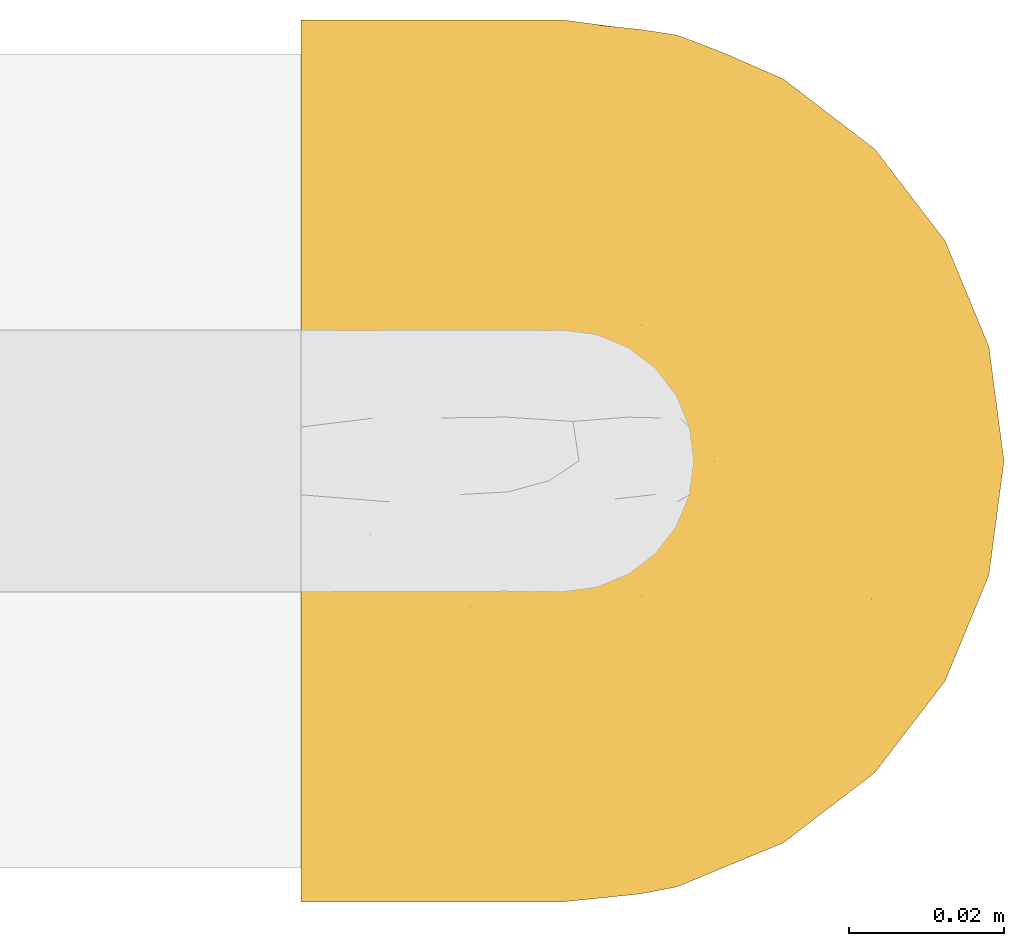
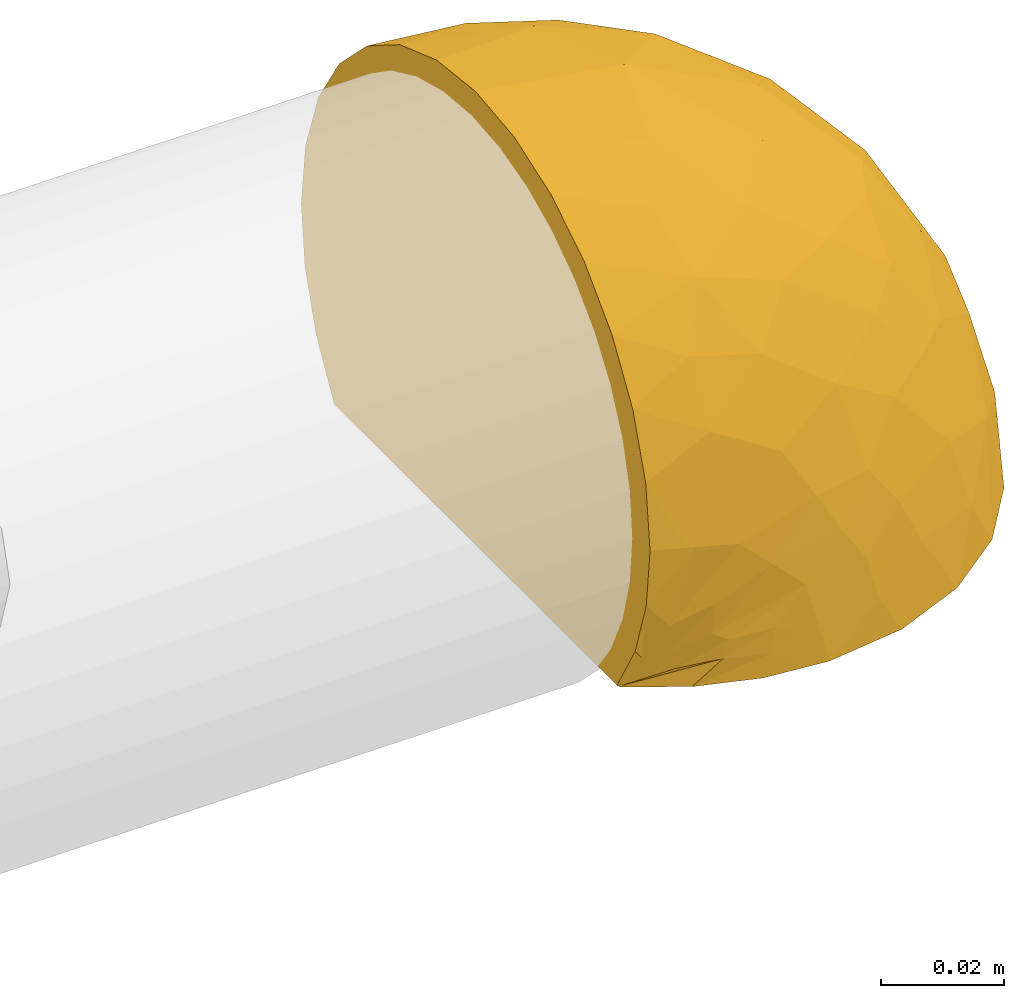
# One storey, part 1 of 4: 1 covering.
"""IFC2X3 building model written with IfcOpenShell, lengths in millimetres."""

import ifcopenshell
import ifcopenshell.guid

model = None  # the IFC model being written
_history = None  # IfcOwnerHistory: only IFC2X3 demands one
_inside = {}  # id of a spatial element -> (the spatial element, [elements in it])
_under = {}  # id of a project, library or spatial element -> (it, [spatial elements below it])
_declared = {}  # id of a project -> (the project, [libraries it declares])
_typed = {}  # id of a type object -> (the type object, [elements of that type])
_made_of = {}  # id of a material, layer set ... -> (it, [elements and type objects made of it])


def new_model(schema):
    """Start an empty IFC model of exactly this schema.

    Asked for "IFC4X3", IfcOpenShell would pick the latest addendum, in which some entities
    have other attributes; the version numbers below select the first issue.
    IFC2X3 requires an IfcOwnerHistory on every rooted entity: one is made here for all.
    """
    global model, _history
    if schema == "IFC4X3":
        model = ifcopenshell.file(schema_version=(4, 3, 0, 0))
    else:
        model = ifcopenshell.file(schema=schema)
    _inside.clear()
    _under.clear()
    _declared.clear()
    _typed.clear()
    _made_of.clear()
    _history = None
    if model.schema == "IFC2X3":
        org = make("IfcOrganization", Name="unknown")
        user = make(
            "IfcPersonAndOrganization",
            ThePerson=make("IfcPerson", FamilyName="unknown"),
            TheOrganization=org,
        )
        app = make(
            "IfcApplication",
            ApplicationDeveloper=org,
            Version="unknown",
            ApplicationFullName="unknown",
            ApplicationIdentifier="unknown",
        )
        _history = make(
            "IfcOwnerHistory",
            OwningUser=user,
            OwningApplication=app,
            ChangeAction="ADDED",
            CreationDate=0,
        )
    return model


def make(cls, **values):
    """One entity of the class cls with the attributes given. An attribute that is None is left unset."""
    return model.create_entity(
        cls, **{name: value for name, value in values.items() if value is not None}
    )


def entity(cls, *values):
    """Any entity or typed value of the class cls, its attributes in the order of the schema. None: left unset."""
    e = model.create_entity(cls)
    for i, value in enumerate(values):
        if value is not None:
            e[i] = value
    return e


def rooted(cls, **values):
    """An entity with a GlobalId (a new one), such as an element, a storey or a relation."""
    return make(cls, GlobalId=ifcopenshell.guid.new(), OwnerHistory=_history, **values)


def si_unit(unit_type, name, prefix=None):
    """IfcSIUnit, for example si_unit("LENGTHUNIT", "METRE", prefix="MILLI")."""
    return make("IfcSIUnit", UnitType=unit_type, Prefix=prefix, Name=name)


def converted_unit(unit_type, name, factor, base, dimensions=None, offset=None):
    """IfcConversionBasedUnit, such as the inch: factor (a typed value) times the base unit."""
    return make(
        "IfcConversionBasedUnit"
        if offset is None
        else "IfcConversionBasedUnitWithOffset",
        ConversionOffset=offset,
        Dimensions=None
        if dimensions is None
        else entity("IfcDimensionalExponents", *dimensions),
        UnitType=unit_type,
        Name=name,
        ConversionFactor=make(
            "IfcMeasureWithUnit", ValueComponent=factor, UnitComponent=base
        ),
    )


def derived_unit(unit_type, elements):
    """IfcDerivedUnit: a product of units, each with its exponent."""
    return make(
        "IfcDerivedUnit",
        Elements=[
            make("IfcDerivedUnitElement", Unit=unit, Exponent=power)
            for unit, power in elements
        ],
        UnitType=unit_type,
    )


def assignment(units):
    """IfcUnitAssignment: the units of a project."""
    return None if units is None else make("IfcUnitAssignment", Units=units)


def point(xyz):
    """IfcCartesianPoint."""
    return None if xyz is None else make("IfcCartesianPoint", Coordinates=xyz)


def direction(xyz):
    """IfcDirection."""
    return None if xyz is None else make("IfcDirection", DirectionRatios=xyz)


def frame(location, z_axis=None, x_axis=None):
    """IfcAxis2Placement3D, a coordinate frame: its origin and axes. An axis left out is left unset."""
    return make(
        "IfcAxis2Placement3D",
        Location=point(location),
        Axis=direction(z_axis),
        RefDirection=direction(x_axis),
    )


def origin_with_axes():
    """The frame at (0, 0, 0) with the z axis (0, 0, 1) and the x axis (1, 0, 0) written out."""
    return frame((0.0, 0.0, 0.0), z_axis=(0.0, 0.0, 1.0), x_axis=(1.0, 0.0, 0.0))


def place(relative_to, where):
    """IfcLocalPlacement: puts the frame where relative to a parent placement (None: the world)."""
    return make(
        "IfcLocalPlacement", PlacementRelTo=relative_to, RelativePlacement=where
    )


def context(
    kind, dimensions, precision=None, world=None, true_north=None, identifier=None
):
    """IfcGeometricRepresentationContext, for example the 3D "Model" context."""
    return make(
        "IfcGeometricRepresentationContext",
        ContextIdentifier=identifier,
        ContextType=kind,
        CoordinateSpaceDimension=dimensions,
        Precision=precision,
        WorldCoordinateSystem=world,
        TrueNorth=true_north,
    )


def subcontext(parent, identifier, kind, view, scale=None):
    """IfcGeometricRepresentationSubContext, for example "Body" below "Model"."""
    return make(
        "IfcGeometricRepresentationSubContext",
        ContextIdentifier=identifier,
        ContextType=kind,
        ParentContext=parent,
        TargetScale=scale,
        TargetView=view,
    )


def project(units=None, contexts=None):
    """IfcProject with its units and contexts."""
    return rooted(
        "IfcProject",
        Name="project",
        RepresentationContexts=contexts,
        UnitsInContext=assignment(units),
    )


def spatial(cls, under=None, at=None, **own):
    """A site, building, storey or space (cls), placed at a placement, below another one or the project."""
    s = rooted(cls, ObjectPlacement=at, **own)
    if under is not None:
        _under.setdefault(under.id(), (under, []))[1].append(s)
    return s


def faces_of(points, faces, orient=None, outer=None):
    """IfcFace entities. A face is a list of loops; a loop is a list of indices into points, from 0.

    orient and outer hold one flag for each loop. By default every Orientation is true, the
    first loop of a face is its IfcFaceOuterBound and the others are IfcFaceBound.
    """
    made = []
    for i, loops in enumerate(faces):
        bounds = []
        for j, loop in enumerate(loops):
            is_outer = j == 0 if outer is None else outer[i][j]
            bounds.append(
                make(
                    "IfcFaceOuterBound" if is_outer else "IfcFaceBound",
                    Bound=make("IfcPolyLoop", Polygon=[points[k] for k in loop]),
                    Orientation=True if orient is None else orient[i][j],
                )
            )
        made.append(make("IfcFace", Bounds=bounds))
    return made


def open_shell(faces, orient=None, outer=None):
    """The faces of one IfcOpenShell. surface_model builds it on its shared points."""
    return ("IfcOpenShell", faces, orient, outer)


def surface_model(cls, points, shells):
    """IfcFaceBasedSurfaceModel or IfcShellBasedSurfaceModel (cls): surfaces that need not close."""
    shared = [point(p) for p in points]
    made = [make(c, CfsFaces=faces_of(shared, fs, o, b)) for c, fs, o, b in shells]
    if cls == "IfcFaceBasedSurfaceModel":
        return make(cls, FbsmFaces=made)
    return make(cls, SbsmBoundary=made)


def shape(context_of_items, identifier, shape_type, items):
    """IfcShapeRepresentation: the items that make up one representation, for example the "Body"."""
    return make(
        "IfcShapeRepresentation",
        ContextOfItems=context_of_items,
        RepresentationIdentifier=identifier,
        RepresentationType=shape_type,
        Items=items,
    )


def source(mapping_origin, context_of_items, identifier, shape_type, items):
    """IfcRepresentationMap: a shape defined once, which mapped items show again and again."""
    return make(
        "IfcRepresentationMap",
        MappingOrigin=mapping_origin,
        MappedRepresentation=shape(context_of_items, identifier, shape_type, items),
    )


def transform(
    local_origin,
    x_axis=None,
    y_axis=None,
    z_axis=None,
    scale=None,
    scale2=None,
    scale3=None,
    uniform=True,
):
    """IfcCartesianTransformationOperator3D, or its non-uniform kind. x_axis, y_axis, z_axis: its Axis1, 2, 3."""
    if uniform:
        return make(
            "IfcCartesianTransformationOperator3D",
            Axis1=direction(x_axis),
            Axis2=direction(y_axis),
            LocalOrigin=point(local_origin),
            Scale=scale,
            Axis3=direction(z_axis),
        )
    return make(
        "IfcCartesianTransformationOperator3DnonUniform",
        Axis1=direction(x_axis),
        Axis2=direction(y_axis),
        LocalOrigin=point(local_origin),
        Scale=scale,
        Axis3=direction(z_axis),
        Scale2=scale2,
        Scale3=scale3,
    )


def mapped(mapping_source, mapping_target):
    """IfcMappedItem: shows the shape of a source again, moved by a transform."""
    return make(
        "IfcMappedItem", MappingSource=mapping_source, MappingTarget=mapping_target
    )


def made_of(thing, what):
    """Note that an element or type object is made of a material, layer set ...; save() writes the relation."""
    if what is not None:
        _made_of.setdefault(what.id(), (what, []))[1].append(thing)
    return thing


def element(
    cls,
    number,
    at=None,
    inside=None,
    cuts=None,
    type_object=None,
    material=None,
    context=None,
    identifier="Body",
    shape_type=None,
    held_by="IfcProductDefinitionShape",
    body=None,
    shapes=None,
    **own,
):
    """One element of the class cls, such as IfcWall. Its Tag is "e" and its number.

    at: its placement. inside: the storey or other place that contains it. cuts: it is an
    opening in that element (IfcRelVoidsElement). A single representation is given by context,
    identifier, shape_type and body (its items); several are given by shapes. held_by: the class
    of the entity that holds the representations. save() writes the other relations.
    """
    e = rooted(cls, Tag="e%d" % number, ObjectPlacement=at, **own)
    if body is not None:
        shapes = [shape(context, identifier, shape_type, body)]
    if shapes is not None:
        e.Representation = make(held_by, Representations=shapes)
    if inside is not None:
        _inside.setdefault(inside.id(), (inside, []))[1].append(e)
    if cuts is not None:
        rooted(
            "IfcRelVoidsElement", RelatingBuildingElement=cuts, RelatedOpeningElement=e
        )
    if type_object is not None:
        _typed.setdefault(type_object.id(), (type_object, []))[1].append(e)
    return made_of(e, material)


def aggregate(whole, parts):
    """IfcRelAggregates: a whole, such as a stair, and the parts it consists of."""
    return rooted("IfcRelAggregates", RelatingObject=whole, RelatedObjects=parts)


def save(model, path):
    """Write the relations noted so far, then the file.

    IfcRelAggregates (storeys below a building ...), IfcRelContainedInSpatialStructure (elements
    in a storey), IfcRelDefinesByType, IfcRelAssociatesMaterial and IfcRelDeclares: one each for
    every whole, place, type object, material and project.
    """
    for whole, parts in _under.values():
        aggregate(whole, parts)
    for where, things in _inside.values():
        rooted(
            "IfcRelContainedInSpatialStructure",
            RelatedElements=things,
            RelatingStructure=where,
        )
    for kind, things in _typed.values():
        rooted("IfcRelDefinesByType", RelatedObjects=things, RelatingType=kind)
    for what, things in _made_of.values():
        rooted("IfcRelAssociatesMaterial", RelatedObjects=things, RelatingMaterial=what)
    for by, libraries in _declared.values():
        rooted("IfcRelDeclares", RelatingContext=by, RelatedDefinitions=libraries)
    model.write(path)


model = new_model("IFC2X3")

# Units and contexts
model_context = context("Model", 3, precision=0.01, world=frame((0.0, 4.29681676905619e-09, 0.0)), true_north=direction((4.01073788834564e-13, 1.0)))
plan_context = context("Plan", 3, precision=0.01, world=frame((0.0, 4.29681676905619e-09, 0.0)), true_north=direction((4.01073788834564e-13, 1.0)))
body_context = subcontext(model_context, "Body", "Model", "MODEL_VIEW")
ifc_project = project(units=[converted_unit("PLANEANGLEUNIT", "DEGREE", entity("IfcPositiveLengthMeasure", 0.0174532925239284), si_unit("PLANEANGLEUNIT", "RADIAN"), dimensions=[0, 0, 0, 0, 0, 0, 0]), si_unit("AREAUNIT", "SQUARE_METRE"), si_unit("LENGTHUNIT", "METRE", prefix="MILLI"), si_unit("MASSUNIT", "GRAM", prefix="KILO"), si_unit("POWERUNIT", "WATT"), si_unit("PRESSUREUNIT", "PASCAL"), si_unit("FORCEUNIT", "NEWTON", prefix="KILO"), si_unit("ELECTRICVOLTAGEUNIT", "VOLT"), si_unit("ELECTRICCURRENTUNIT", "AMPERE"), si_unit("THERMODYNAMICTEMPERATUREUNIT", "DEGREE_CELSIUS"), si_unit("TIMEUNIT", "SECOND"), si_unit("VOLUMEUNIT", "CUBIC_METRE"), derived_unit("LINEARVELOCITYUNIT", [(si_unit("LENGTHUNIT", "METRE"), 1), (si_unit("TIMEUNIT", "SECOND"), -1)]), derived_unit("VOLUMETRICFLOWRATEUNIT", [(si_unit("VOLUMEUNIT", "CUBIC_METRE"), 1), (si_unit("TIMEUNIT", "SECOND"), -1)]), derived_unit("THERMALTRANSMITTANCEUNIT", [(si_unit("POWERUNIT", "WATT"), 1), (si_unit("THERMODYNAMICTEMPERATUREUNIT", "KELVIN"), -1), (si_unit("AREAUNIT", "SQUARE_METRE"), -1)]), derived_unit("SOUNDPRESSUREUNIT", [(si_unit("PRESSUREUNIT", "PASCAL"), 1)])], contexts=[model_context, plan_context])

# Site, building, storey
site_placement = place(None, frame((0.0, -4.29681676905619e-09, 0.0), z_axis=(0.0, 0.0, 1.0), x_axis=(1.0, 0.0, 0.0)))
site = spatial("IfcSite", under=ifc_project, at=site_placement, Name="ENGM", CompositionType="ELEMENT")
building_placement = place(site_placement, frame((0.0, 4.29681676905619e-09, 0.0), z_axis=(0.0, 0.0, 1.0), x_axis=(1.0, 0.0, 0.0)))
building = spatial("IfcBuilding", under=site, at=building_placement, Name="TI", CompositionType="ELEMENT")
storey_placement = place(building_placement, frame((0.0, 0.0, 205200.0), z_axis=(0.0, 0.0, 1.0), x_axis=(1.0, 0.0, 0.0)))
storey = spatial("IfcBuildingStorey", under=building, at=storey_placement, Name="Nivå D + 1,2 m", CompositionType="ELEMENT", Elevation=205200.0)

# Covering
shared_shape = source(origin_with_axes(), body_context, "Body", "SurfaceModel", [
    surface_model("IfcShellBasedSurfaceModel", [(24.69442, 33.8, 51.26203), (35.48425, 33.8, 44.48008), (51.27108, 33.8, 24.67561), (-33.34059, 33.8, -46.10873), (44.4937, 33.8, 35.46718), (-11.775, 33.8, 55.6683), (0.0, 33.8, 56.9), (-33.34059, 33.8, 46.10873), (-23.05704, 33.8, 52.01906), (12.66523, 33.8, 55.47253), (55.47675, 33.8, 12.64674), (56.9, 33.8, 0.0), (55.47253, 33.8, -12.66523), (44.48008, 33.8, -35.48425), (51.26203, 33.8, -24.69442), (35.46718, 33.8, -44.4937), (-23.07704, 33.8, -52.01019), (-11.7964, 33.8, -55.66377), (24.67561, 33.8, -51.27108), (12.64674, 33.8, -55.47675), (0.0, 33.8, -56.9), (-33.8, 33.34059, 46.10873), (-33.8, 33.34059, -46.10873), (-33.8, 23.06476, -52.01564), (-33.8, 11.78813, -55.66552), (-33.8, 0.0, -56.9), (-33.8, 0.0, 56.9), (-33.8, 23.06476, 52.01564), (-33.8, 11.78813, 55.66552), (-33.8, -14.7268, 54.96118), (-33.8, -14.7268, -54.96118), (-33.8, -28.45, -49.27684), (-33.8, -40.23438, -40.23438), (-33.8, -49.27684, -28.45), (-33.8, -54.96118, -14.7268), (-33.8, -54.96118, 14.7268), (-33.8, -40.23438, 40.23438), (-33.8, -28.45, 49.27684), (-33.8, -49.27684, 28.45), (-33.8, -56.9, 0.0), (-33.47515, 33.47515, 46.10873), (-33.47515, 33.47515, -46.10873), (-32.08364, 25.44579, -50.9801), (-33.67665, 33.39168, -46.10873), (-30.83312, 26.67841, -50.56853), (-15.87334, 20.68765, -55.70718), (-10.71417, 10.71417, -56.9), (-22.5985, 20.69411, -54.43708), (-25.35, 2.26417, -56.9), (-28.51435, 18.40378, -54.135), (-23.15334, 12.21937, -56.06086), (-33.43341, 33.5759, -46.10873), (-33.39168, 33.67665, -46.10873), (-18.4122, 28.52188, -54.13163), (-25.86292, 27.59402, -51.71796), (-10.594, 29.15837, -55.99022), (-2.26417, 25.35, -56.9), (-33.5759, 33.43341, -46.10873), (-9.88716, 23.89498, -56.34654), (-4.52834, 16.9, -56.9), (-26.53944, 21.15799, -53.5551), (-29.02753, 27.72284, -50.57484), (-16.9, 4.52834, -56.9), (-1.89548, 26.72596, -56.9), (-21.08164, -9.83471, -55.69449), (-12.19459, -6.31894, -55.67005), (1.29929, -23.83547, -45.86), (-3.44185, -39.07106, -34.63852), (-16.08681, -32.30654, -45.14181), (-12.53249, -17.54431, -52.56875), (-24.14956, -20.93038, -52.56875), (19.51212, -39.57784, 0.0), (-5.77216, -52.46082, 0.0), (2.43768, -47.9375, -12.04628), (27.50756, -27.50756, -20.95211), (9.13936, -40.31341, -23.42618), (12.63976, -31.02468, -33.56907), (29.0814, 21.55934, -48.18545), (17.10597, 20.64085, -53.71172), (-15.67837, -54.0783, -10.47602), (-20.00402, -43.92696, -34.63852), (-11.38936, -49.61057, -21.77469), (25.8449, -21.54003, -31.23005), (42.40332, -10.087, -17.51383), (18.75415, -18.3345, -40.2421), (10.4419, -13.49624, -47.73768), (21.60417, -5.46943, -45.54281), (9.23089, 7.63542, -54.43656), (24.82732, 7.97866, -48.18545), (37.87075, 15.27302, -40.2421), (-0.20989, 3.79953, -55.7794), (50.92012, 11.89905, -18.79808), (30.72116, -7.8177, -37.28829), (41.22013, 0.75864, -30.27981), (46.66377, 18.13685, -30.27981), (18.39178, -38.38046, -13.50943), (32.12068, -27.27232, -9.7235), (52.46082, 5.77216, 0.0), (39.57784, -19.51212, 0.0), (-26.72596, 1.89548, -56.9), (1.285, -6.94906, -53.27967), (24.84384, 7.9713, 48.17409), (29.09917, 21.55599, 48.17409), (17.12404, 20.63566, 53.70514), (-16.07985, -54.20588, 10.23371), (-2.14575, -46.559, 21.77469), (1.72334, -48.57904, 10.55822), (14.17314, -39.78008, 17.81974), (-19.63149, -51.39867, 21.77469), (31.54782, -1.01192, 40.22682), (30.88333, -13.90178, 32.6927), (41.23057, 0.75415, 30.26172), (18.76512, -18.34538, 40.22666), (20.72445, -26.00089, 31.88611), (50.9267, 11.89822, 18.77928), (-16.6221, -7.67112, 55.80919), (-16.9, 4.52834, 56.9), (-25.35, 2.26417, 56.9), (-13.80199, -42.5668, 34.63852), (-21.83958, -33.58531, 45.14181), (-19.37969, -19.87123, 52.56875), (7.60894, -34.46398, 33.43332), (-7.48103, -29.3755, 45.14181), (26.00634, -33.17128, 10.14462), (27.51051, -27.51051, 20.94155), (-25.39793, -9.93514, 55.87819), (46.67489, 18.13455, 30.26172), (-1.12035, 1.70754, 55.61965), (-4.52834, 16.9, 56.9), (-10.71417, 10.71417, 56.9), (42.40865, -10.09182, 17.4921), (37.8857, 15.26915, 40.22666), (9.23512, 7.61904, 54.43287), (-1.89548, 26.72596, 56.9), (6.61304, -17.87206, 47.18516), (-9.78518, -15.45307, 52.88466), (14.61926, -5.8279, 49.09168), (-9.48758, -2.99227, 55.96008), (7.94789, -26.49594, 40.91874), (-1.31124, -9.39277, 53.17563), (-29.15757, 10.59376, 55.9903), (-23.89175, 9.87937, 56.34772), (-24.61782, 17.65103, 54.82579), (-29.75291, 25.81063, 51.18968), (-28.51435, 18.40378, 54.135), (-15.87334, 20.68765, 55.70718), (-25.86292, 27.59402, 51.71796), (-22.5985, 20.69411, 54.43708), (-26.85079, 30.69652, 50.51467), (-33.39168, 33.67665, 46.10873), (-33.43341, 33.5759, 46.10873), (-25.55723, 31.93363, 50.94173), (-18.39517, 28.5074, 54.13837), (-2.26417, 25.35, 56.9), (-33.67665, 33.39168, 46.10873), (-28.3466, 27.59544, 50.84629), (-33.5759, 33.43341, 46.10873)], [open_shell([[[0, 1, 2]], [[0, 2, 3]], [[2, 1, 4]], [[3, 5, 0]], [[6, 0, 5]], [[7, 8, 5]], [[5, 3, 7]], [[6, 9, 0]], [[3, 2, 10]], [[3, 11, 12]], [[3, 12, 13]], [[13, 12, 14]], [[3, 13, 15]], [[16, 3, 17]], [[18, 3, 15]], [[19, 3, 18]], [[20, 17, 3]], [[20, 3, 19]], [[11, 3, 10]], [[21, 22, 23]], [[24, 25, 23]], [[26, 23, 25]], [[27, 21, 28]], [[23, 28, 21]], [[23, 26, 28]], [[25, 29, 26]], [[25, 30, 29]], [[30, 31, 32]], [[32, 33, 34]], [[32, 34, 30]], [[30, 34, 35]], [[36, 37, 35]], [[36, 35, 38]], [[37, 30, 35]], [[34, 39, 35]], [[30, 37, 29]], [[22, 21, 40]], [[41, 22, 40]], [[7, 3, 40]], [[41, 40, 3]], [[42, 43, 44]], [[45, 46, 47]], [[48, 49, 50]], [[51, 52, 53]], [[49, 24, 42]], [[22, 43, 42]], [[24, 23, 42]], [[54, 41, 51]], [[17, 55, 16]], [[51, 53, 54]], [[45, 47, 54]], [[16, 52, 3]], [[55, 20, 56]], [[43, 57, 44]], [[45, 58, 59]], [[16, 53, 52]], [[58, 55, 56]], [[50, 49, 60]], [[59, 58, 56]], [[54, 47, 61]], [[53, 58, 45]], [[53, 45, 54]], [[46, 62, 47]], [[45, 59, 46]], [[22, 42, 23]], [[44, 60, 49]], [[60, 61, 47]], [[42, 44, 49]], [[41, 61, 57]], [[61, 44, 57]], [[50, 47, 62]], [[61, 60, 44]], [[54, 61, 41]], [[47, 50, 60]], [[48, 25, 24]], [[48, 24, 49]], [[50, 62, 48]], [[55, 58, 53]], [[16, 55, 53]], [[55, 17, 20]], [[63, 20, 19]], [[64, 62, 65]], [[66, 67, 68]], [[69, 70, 64]], [[71, 72, 73]], [[74, 75, 76]], [[77, 78, 18]], [[70, 31, 30]], [[34, 79, 39]], [[31, 68, 32]], [[80, 33, 32]], [[31, 70, 68]], [[73, 81, 75]], [[33, 80, 81]], [[74, 82, 83]], [[84, 85, 86]], [[87, 59, 78]], [[78, 88, 87]], [[89, 88, 77]], [[89, 15, 13]], [[78, 59, 63]], [[78, 19, 18]], [[46, 90, 65]], [[91, 14, 12]], [[92, 89, 93]], [[94, 89, 13]], [[83, 93, 91]], [[71, 95, 96]], [[92, 93, 82]], [[33, 81, 34]], [[13, 14, 94]], [[12, 97, 91]], [[12, 11, 97]], [[93, 94, 91]], [[74, 76, 82]], [[83, 97, 98]], [[75, 81, 67]], [[18, 15, 77]], [[79, 81, 73]], [[63, 19, 78]], [[66, 68, 69]], [[80, 68, 67]], [[30, 25, 99]], [[88, 92, 86]], [[87, 100, 90]], [[91, 94, 14]], [[89, 94, 93]], [[89, 77, 15]], [[78, 77, 88]], [[97, 83, 91]], [[96, 83, 98]], [[100, 66, 69]], [[66, 84, 76]], [[65, 69, 64]], [[87, 88, 86]], [[76, 75, 67]], [[75, 95, 73]], [[75, 74, 95]], [[79, 73, 72]], [[39, 79, 72]], [[34, 81, 79]], [[96, 95, 74]], [[71, 73, 95]], [[83, 96, 74]], [[71, 96, 98]], [[66, 76, 67]], [[87, 90, 59]], [[76, 84, 82]], [[92, 82, 84]], [[83, 82, 93]], [[86, 92, 84]], [[89, 92, 88]], [[85, 84, 66]], [[86, 85, 87]], [[66, 100, 85]], [[87, 85, 100]], [[68, 80, 32]], [[81, 80, 67]], [[64, 30, 99]], [[68, 70, 69]], [[30, 64, 70]], [[62, 64, 99]], [[46, 65, 62]], [[100, 69, 65]], [[65, 90, 100]], [[59, 90, 46]], [[101, 102, 103]], [[39, 72, 104]], [[105, 106, 107]], [[104, 105, 108]], [[109, 110, 111]], [[38, 35, 108]], [[112, 113, 110]], [[2, 114, 10]], [[115, 116, 117]], [[97, 10, 114]], [[108, 118, 38]], [[105, 104, 106]], [[36, 119, 37]], [[37, 119, 120]], [[0, 9, 103]], [[121, 122, 118]], [[123, 124, 107]], [[120, 115, 125]], [[2, 4, 126]], [[37, 120, 29]], [[127, 128, 129]], [[114, 2, 126]], [[11, 10, 97]], [[130, 114, 111]], [[110, 130, 111]], [[4, 1, 131]], [[132, 101, 103]], [[111, 126, 131]], [[1, 0, 102]], [[111, 131, 109]], [[103, 128, 132]], [[36, 38, 118]], [[121, 105, 107]], [[102, 131, 1]], [[109, 131, 101]], [[9, 6, 133]], [[128, 103, 133]], [[114, 130, 97]], [[122, 134, 135]], [[9, 133, 103]], [[112, 136, 134]], [[136, 101, 132]], [[121, 118, 105]], [[119, 118, 122]], [[129, 137, 127]], [[136, 112, 109]], [[115, 137, 116]], [[29, 125, 26]], [[138, 112, 134]], [[103, 102, 0]], [[131, 102, 101]], [[131, 126, 4]], [[114, 126, 111]], [[123, 130, 124]], [[97, 130, 98]], [[127, 136, 132]], [[137, 129, 116]], [[134, 136, 139]], [[125, 115, 117]], [[135, 115, 120]], [[26, 125, 117]], [[120, 125, 29]], [[136, 109, 101]], [[110, 109, 112]], [[112, 138, 113]], [[130, 110, 124]], [[107, 113, 121]], [[124, 110, 113]], [[135, 134, 139]], [[138, 122, 121]], [[118, 119, 36]], [[120, 119, 122]], [[122, 135, 120]], [[137, 135, 139]], [[135, 137, 115]], [[137, 139, 127]], [[136, 127, 139]], [[128, 127, 132]], [[104, 108, 35]], [[118, 108, 105]], [[39, 104, 35]], [[104, 72, 106]], [[72, 71, 106]], [[123, 107, 106]], [[123, 106, 71]], [[107, 124, 113]], [[71, 98, 123]], [[130, 123, 98]], [[122, 138, 134]], [[113, 138, 121]], [[117, 140, 26]], [[116, 141, 117]], [[142, 143, 144]], [[145, 146, 147]], [[148, 149, 150]], [[28, 140, 27]], [[5, 8, 151]], [[145, 152, 146]], [[152, 153, 5]], [[154, 21, 27]], [[153, 6, 5]], [[148, 151, 149]], [[40, 146, 150]], [[141, 140, 117]], [[141, 142, 144]], [[144, 154, 27]], [[143, 154, 144]], [[155, 156, 143]], [[147, 129, 145]], [[7, 149, 151]], [[148, 146, 152]], [[146, 148, 150]], [[152, 145, 128]], [[129, 147, 116]], [[129, 128, 145]], [[151, 148, 152]], [[5, 151, 152]], [[7, 151, 8]], [[152, 128, 153]], [[142, 116, 147]], [[140, 141, 144]], [[27, 140, 144]], [[140, 28, 26]], [[116, 142, 141]], [[155, 146, 40]], [[147, 146, 155]], [[147, 143, 142]], [[154, 143, 156]], [[156, 155, 40]], [[143, 147, 155]]])]),
])
covering_placement = place(storey_placement, frame((607824.03193, 699355.84973, 4953.16299000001), z_axis=(0.0, -1.0, 0.0), x_axis=(0.0, 0.0, 1.0)))
element("IfcCovering", 1, at=covering_placement, inside=storey, Name="BI11T - Rørskål m/Al.folie - varme 60-25", PredefinedType="INSULATION", context=body_context, shape_type="MappedRepresentation", body=[
    mapped(shared_shape, transform((0.0, 0.0, 0.0), scale=1.0)),
])

save(model, "model.ifc")
